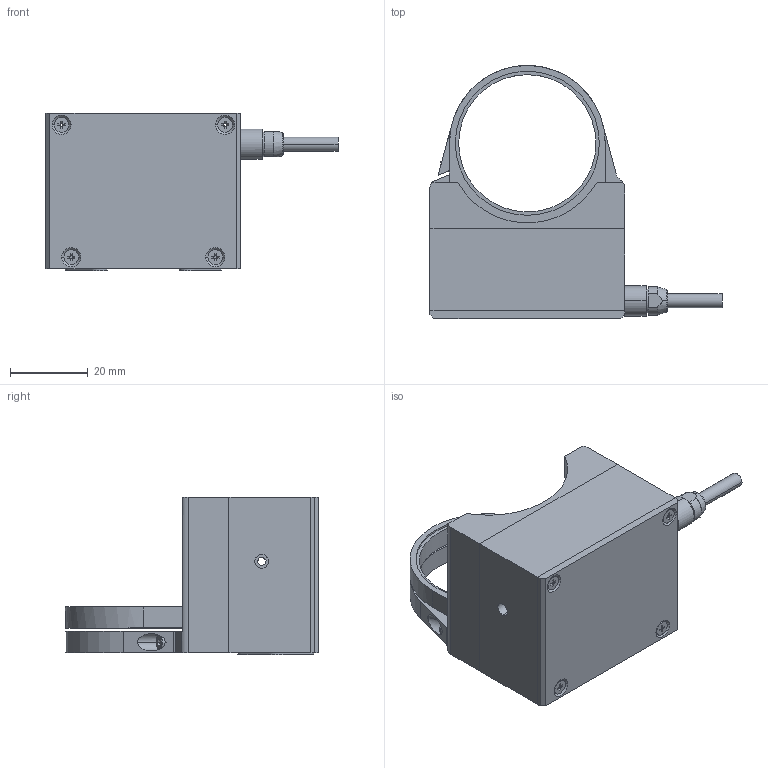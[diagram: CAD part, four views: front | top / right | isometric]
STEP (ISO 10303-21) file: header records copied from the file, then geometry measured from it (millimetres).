
FILE_DESCRIPTION (( 'STEP AP203' ), '1' );
FILE_NAME ('00000387.STEP', '2022-06-02T05:57:39', ( '' ), ( '' ), 'SwSTEP 2.0', 'SolidWorks 2021', '' );
FILE_SCHEMA (( 'CONFIG_CONTROL_DESIGN' ));
Length unit declared in the file: millimetre
Products named in the file (1): 00000387
Bounding box: 75 x 65 x 40.5 mm (x, y, z)
Surface area: 18059.7 mm2 (no closed solid volume)
Topology: 0 solids, 17 shells, 244 faces, 883 edges, 655 vertices
Faces by surface type: plane 135, cylinder 84, cone 21, torus 4
Entity records: 9618 total; most frequent: CARTESIAN_POINT 1997, DIRECTION 1609, ORIENTED_EDGE 1382, EDGE_CURVE 881, VERTEX_POINT 655, AXIS2_PLACEMENT_3D 545, VECTOR 519, LINE 519
